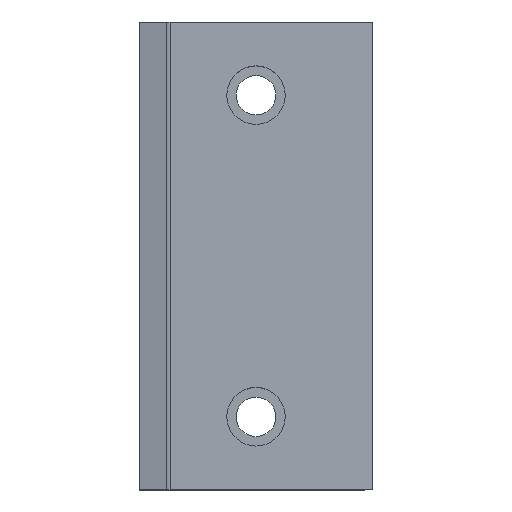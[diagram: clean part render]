
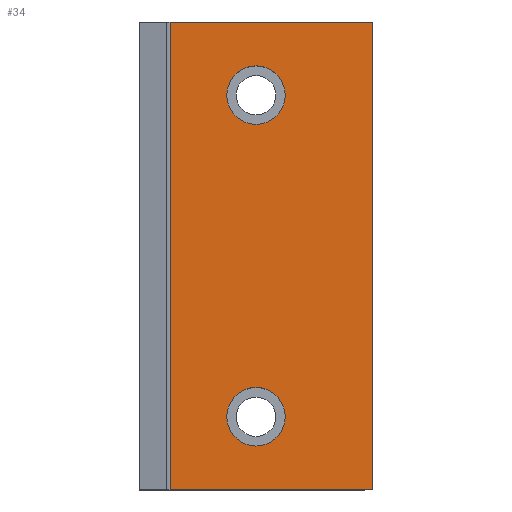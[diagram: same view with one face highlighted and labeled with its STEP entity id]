
A CAD part, top view. The second image highlights one B-rep face of the part: STEP entity #34.
In plain terms, the highlighted planar face has unit normal (0, 0, 1).
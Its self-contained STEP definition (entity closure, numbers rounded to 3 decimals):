
#16 = LINE ( 'NONE', #28, #454 ) ;
#28 = CARTESIAN_POINT ( 'NONE',  ( 80., 80., 20. ) ) ;
#29 = CARTESIAN_POINT ( 'NONE',  ( 0., 160., 20. ) ) ;
#34 = ADVANCED_FACE ( 'NONE', ( #468, #444, #529 ), #387, .T. ) ;
#42 = CIRCLE ( 'NONE', #113, 10. ) ;
#44 = CARTESIAN_POINT ( 'NONE',  ( 30., 25., 20. ) ) ;
#61 = ORIENTED_EDGE ( 'NONE', *, *, #119, .F. ) ;
#64 = AXIS2_PLACEMENT_3D ( 'NONE', #29, #253, #501 ) ;
#77 = DIRECTION ( 'NONE',  ( 1., 0., 0. ) ) ;
#94 = CARTESIAN_POINT ( 'NONE',  ( 45.329, 160., 20. ) ) ;
#97 = VECTOR ( 'NONE', #179, 1000. ) ;
#106 = ORIENTED_EDGE ( 'NONE', *, *, #521, .F. ) ;
#113 = AXIS2_PLACEMENT_3D ( 'NONE', #406, #409, #407 ) ;
#119 = EDGE_CURVE ( 'NONE', #362, #269, #462, .T. ) ;
#123 = VERTEX_POINT ( 'NONE', #379 ) ;
#130 = ORIENTED_EDGE ( 'NONE', *, *, #490, .F. ) ;
#135 = CARTESIAN_POINT ( 'NONE',  ( 50., 135., 20. ) ) ;
#155 = VECTOR ( 'NONE', #467, 1000. ) ;
#156 = ORIENTED_EDGE ( 'NONE', *, *, #441, .T. ) ;
#163 = CARTESIAN_POINT ( 'NONE',  ( 40., 25., 20. ) ) ;
#164 = AXIS2_PLACEMENT_3D ( 'NONE', #405, #359, #310 ) ;
#165 = CARTESIAN_POINT ( 'NONE',  ( 45.329, 0., 20. ) ) ;
#167 = VERTEX_POINT ( 'NONE', #419 ) ;
#168 = EDGE_LOOP ( 'NONE', ( #106, #413 ) ) ;
#172 = VECTOR ( 'NONE', #77, 1000. ) ;
#177 = DIRECTION ( 'NONE',  ( 1., 0., 0. ) ) ;
#179 = DIRECTION ( 'NONE',  ( 0., -1., 0. ) ) ;
#215 = CARTESIAN_POINT ( 'NONE',  ( 50., 25., 20. ) ) ;
#217 = ORIENTED_EDGE ( 'NONE', *, *, #382, .F. ) ;
#253 = DIRECTION ( 'NONE',  ( 0., 0., 1. ) ) ;
#262 = ORIENTED_EDGE ( 'NONE', *, *, #451, .F. ) ;
#265 = CARTESIAN_POINT ( 'NONE',  ( 40., 135., 20. ) ) ;
#269 = VERTEX_POINT ( 'NONE', #215 ) ;
#270 = VERTEX_POINT ( 'NONE', #135 ) ;
#282 = VERTEX_POINT ( 'NONE', #332 ) ;
#289 = LINE ( 'NONE', #414, #97 ) ;
#295 = VERTEX_POINT ( 'NONE', #328 ) ;
#303 = DIRECTION ( 'NONE',  ( 0., 0., 1. ) ) ;
#310 = DIRECTION ( 'NONE',  ( 1., 0., 0. ) ) ;
#328 = CARTESIAN_POINT ( 'NONE',  ( 80., 0., 20. ) ) ;
#332 = CARTESIAN_POINT ( 'NONE',  ( 80., 160., 20. ) ) ;
#359 = DIRECTION ( 'NONE',  ( 0., 0., 1. ) ) ;
#362 = VERTEX_POINT ( 'NONE', #44 ) ;
#363 = DIRECTION ( 'NONE',  ( 1., 0., 0. ) ) ;
#376 = AXIS2_PLACEMENT_3D ( 'NONE', #163, #509, #177 ) ;
#379 = CARTESIAN_POINT ( 'NONE',  ( 30., 135., 20. ) ) ;
#382 = EDGE_CURVE ( 'NONE', #269, #362, #475, .T. ) ;
#387 = PLANE ( 'NONE',  #64 ) ;
#391 = VERTEX_POINT ( 'NONE', #489 ) ;
#405 = CARTESIAN_POINT ( 'NONE',  ( 40., 25., 20. ) ) ;
#406 = CARTESIAN_POINT ( 'NONE',  ( 40., 135., 20. ) ) ;
#407 = DIRECTION ( 'NONE',  ( 1., 0., 0. ) ) ;
#409 = DIRECTION ( 'NONE',  ( 0., 0., 1. ) ) ;
#410 = EDGE_LOOP ( 'NONE', ( #156, #262, #130, #586 ) ) ;
#413 = ORIENTED_EDGE ( 'NONE', *, *, #579, .F. ) ;
#414 = CARTESIAN_POINT ( 'NONE',  ( 10.658, 80., 20. ) ) ;
#419 = CARTESIAN_POINT ( 'NONE',  ( 10.658, 0., 20. ) ) ;
#441 = EDGE_CURVE ( 'NONE', #167, #295, #505, .T. ) ;
#444 = FACE_BOUND ( 'NONE', #168, .T. ) ;
#451 = EDGE_CURVE ( 'NONE', #282, #295, #16, .T. ) ;
#454 = VECTOR ( 'NONE', #582, 1000. ) ;
#462 = CIRCLE ( 'NONE', #164, 10. ) ;
#467 = DIRECTION ( 'NONE',  ( 1., 0., 0. ) ) ;
#468 = FACE_OUTER_BOUND ( 'NONE', #410, .T. ) ;
#475 = CIRCLE ( 'NONE', #376, 10. ) ;
#488 = CIRCLE ( 'NONE', #575, 10. ) ;
#489 = CARTESIAN_POINT ( 'NONE',  ( 10.658, 160., 20. ) ) ;
#490 = EDGE_CURVE ( 'NONE', #391, #282, #496, .T. ) ;
#496 = LINE ( 'NONE', #94, #155 ) ;
#501 = DIRECTION ( 'NONE',  ( 1., 0., 0. ) ) ;
#505 = LINE ( 'NONE', #165, #172 ) ;
#509 = DIRECTION ( 'NONE',  ( 0., 0., 1. ) ) ;
#521 = EDGE_CURVE ( 'NONE', #123, #270, #488, .T. ) ;
#529 = FACE_BOUND ( 'NONE', #530, .T. ) ;
#530 = EDGE_LOOP ( 'NONE', ( #61, #217 ) ) ;
#533 = EDGE_CURVE ( 'NONE', #391, #167, #289, .T. ) ;
#575 = AXIS2_PLACEMENT_3D ( 'NONE', #265, #303, #363 ) ;
#579 = EDGE_CURVE ( 'NONE', #270, #123, #42, .T. ) ;
#582 = DIRECTION ( 'NONE',  ( 0., -1., 0. ) ) ;
#586 = ORIENTED_EDGE ( 'NONE', *, *, #533, .T. ) ;
